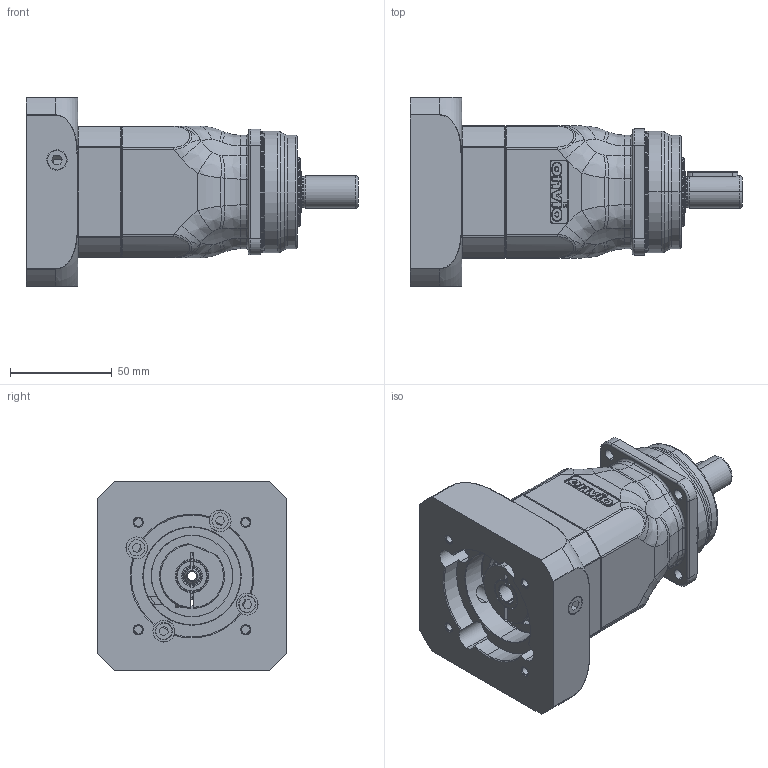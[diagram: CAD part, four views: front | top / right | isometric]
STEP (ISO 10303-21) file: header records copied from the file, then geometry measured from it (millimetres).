
FILE_DESCRIPTION (( 'STEP AP214' ), '1' );
FILE_NAME ('AH-010-RRR-FFF-MMM-S-LL-XXX-BXX-0000.STEP', '2019-10-11T20:31:15', ( '' ), ( '' ), 'SwSTEP 2.0', 'SolidWorks 2019', '' );
FILE_SCHEMA (( 'AUTOMOTIVE_DESIGN' ));
Length unit declared in the file: millimetre
Products named in the file (1): AH-010-RRR-FFF-MMM-S-LL-XXX-BXX-0000
Bounding box: 163.5 x 93 x 93 mm (x, y, z)
Surface area: 67067.8 mm2 (no closed solid volume)
Topology: 0 solids, 78 shells, 854 faces, 3579 edges, 2762 vertices
Faces by surface type: cylinder 287, plane 214, torus 175, bspline 95, cone 83
Entity records: 57330 total; most frequent: CARTESIAN_POINT 20808, DIRECTION 5119, ORIENTED_EDGE 5099, EDGE_CURVE 3573, VERTEX_POINT 2762, AXIS2_PLACEMENT_3D 1814, VECTOR 1491, LINE 1491
